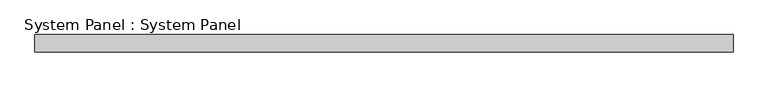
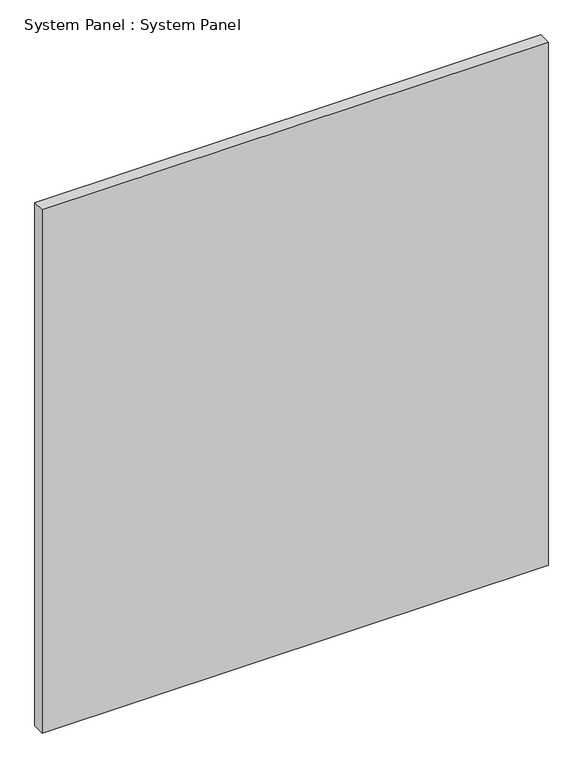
"""IFC4 building model written with IfcOpenShell, lengths in millimetres: plate geometry, System Panel : System Panel."""

from ifc_helpers import new_model, si_unit, origin, origin_with_axes, place, context, project, spatial, polyline, outline, extrude, source, transform, mapped, element, save


def system_panel_system_panel_3d0aa47e(model_context):
    return source(origin(), model_context, "Body", "SweptSolid", [
        extrude(outline(polyline([(514.35, 19.05), (-514.35, 19.05), (-514.35, 44.45), (514.35, 44.45), (514.35, 19.05)])), origin_with_axes(), (0.0, 0.0, 1.0), 1123.95),
    ])


if __name__ == "__main__":
    model = new_model("IFC4")
    model_context = context("Model", 3, world=origin())
    ifc_project = project(units=[si_unit("LENGTHUNIT", "METRE", prefix="MILLI")], contexts=[model_context])
    site = spatial("IfcSite", under=ifc_project)
    building = spatial("IfcBuilding", under=site)
    placement = place(None, origin())
    system_panel_system_panel_shape = system_panel_system_panel_3d0aa47e(model_context)
    element("IfcPlate", 1, ObjectType="System Panel : System Panel", at=placement, inside=building, context=model_context, shape_type="MappedRepresentation", body=[
        mapped(system_panel_system_panel_shape, transform((0.0, 0.0, 0.0), x_axis=(1.0, 0.0, 0.0), y_axis=(0.0, 1.0, 0.0), z_axis=(0.0, 0.0, 1.0))),
    ])
    save(model, "model.ifc")
